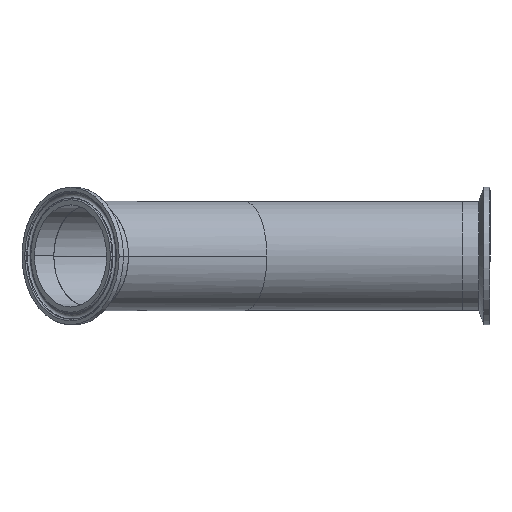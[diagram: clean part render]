
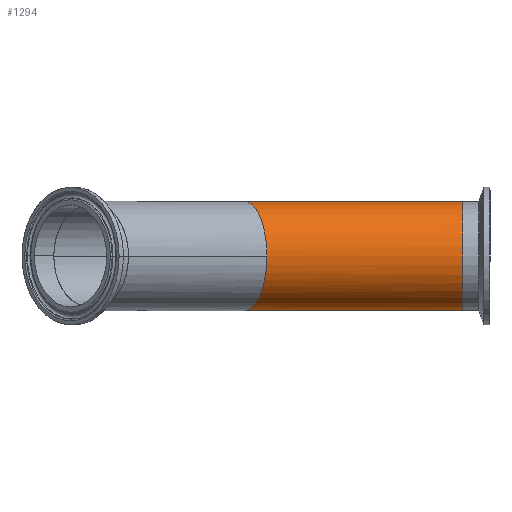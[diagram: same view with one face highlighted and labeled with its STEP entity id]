
A CAD part, left-side view. The second image highlights one B-rep face of the part: STEP entity #1294.
In plain terms, the highlighted cylindrical face has radius 25.4 mm (diameter 50.8 mm), a partial arc.
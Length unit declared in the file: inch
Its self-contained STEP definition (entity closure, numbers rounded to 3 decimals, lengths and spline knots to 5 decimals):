
#31 =( BOUNDED_CURVE ( )  B_SPLINE_CURVE ( 3, ( #671, #658, #1099, #790 ),
 .UNSPECIFIED., .F., .F. ) 
 B_SPLINE_CURVE_WITH_KNOTS ( ( 4, 4 ),
 ( 4.71239, 6.28319 ),
 .UNSPECIFIED. ) 
 CURVE ( )  GEOMETRIC_REPRESENTATION_ITEM ( )  RATIONAL_B_SPLINE_CURVE ( ( 1., 0.805, 0.805, 1. ) ) 
 REPRESENTATION_ITEM ( '' )  );
#43 = EDGE_CURVE ( 'NONE', #320, #127, #352, .T. ) ;
#44 = DIRECTION ( 'NONE',  ( 0., 1., 0. ) ) ;
#89 = CARTESIAN_POINT ( 'NONE',  ( -1., 3.58579, 0. ) ) ;
#127 = VERTEX_POINT ( 'NONE', #456 ) ;
#161 = CARTESIAN_POINT ( 'NONE',  ( 0., 4., -1. ) ) ;
#168 = EDGE_CURVE ( 'NONE', #849, #127, #602, .T. ) ;
#265 = LINE ( 'NONE', #922, #1075 ) ;
#269 = CARTESIAN_POINT ( 'NONE',  ( 0., 0., -1. ) ) ;
#271 = DIRECTION ( 'NONE',  ( 0., 0., -1. ) ) ;
#290 = EDGE_CURVE ( 'NONE', #1124, #341, #469, .T. ) ;
#320 = VERTEX_POINT ( 'NONE', #410 ) ;
#341 = VERTEX_POINT ( 'NONE', #161 ) ;
#352 = LINE ( 'NONE', #918, #1018 ) ;
#410 = CARTESIAN_POINT ( 'NONE',  ( 0., 4., 1. ) ) ;
#433 = CARTESIAN_POINT ( 'NONE',  ( -1., 3.58579, 0. ) ) ;
#456 = CARTESIAN_POINT ( 'NONE',  ( 0., 0., 1. ) ) ;
#464 = DIRECTION ( 'NONE',  ( 0., 0., 1. ) ) ;
#469 =( BOUNDED_CURVE ( )  B_SPLINE_CURVE ( 3, ( #89, #951, #843, #957 ),
 .UNSPECIFIED., .F., .F. ) 
 B_SPLINE_CURVE_WITH_KNOTS ( ( 4, 4 ),
 ( 0., 1.5708 ),
 .UNSPECIFIED. ) 
 CURVE ( )  GEOMETRIC_REPRESENTATION_ITEM ( )  RATIONAL_B_SPLINE_CURVE ( ( 1., 0.805, 0.805, 1. ) ) 
 REPRESENTATION_ITEM ( '' )  );
#602 = CIRCLE ( 'NONE', #1392, 1. ) ;
#658 = CARTESIAN_POINT ( 'NONE',  ( -0.58579, 3.75736, 1. ) ) ;
#671 = CARTESIAN_POINT ( 'NONE',  ( 0., 4., 1. ) ) ;
#719 = AXIS2_PLACEMENT_3D ( 'NONE', #1266, #1354, #271 ) ;
#722 = CYLINDRICAL_SURFACE ( 'NONE', #719, 1. ) ;
#782 = DIRECTION ( 'NONE',  ( 0., -1., 0. ) ) ;
#790 = CARTESIAN_POINT ( 'NONE',  ( -1., 3.58579, 0. ) ) ;
#840 = DIRECTION ( 'NONE',  ( 0., -1., 0. ) ) ;
#843 = CARTESIAN_POINT ( 'NONE',  ( -0.58579, 3.75736, -1. ) ) ;
#849 = VERTEX_POINT ( 'NONE', #269 ) ;
#897 = ORIENTED_EDGE ( 'NONE', *, *, #1340, .T. ) ;
#918 = CARTESIAN_POINT ( 'NONE',  ( 0., 4., 1. ) ) ;
#922 = CARTESIAN_POINT ( 'NONE',  ( 0., 4., -1. ) ) ;
#951 = CARTESIAN_POINT ( 'NONE',  ( -1., 3.58579, -0.58579 ) ) ;
#957 = CARTESIAN_POINT ( 'NONE',  ( 0., 4., -1. ) ) ;
#998 = CARTESIAN_POINT ( 'NONE',  ( 0., 0., 0. ) ) ;
#1018 = VECTOR ( 'NONE', #782, 39.37008 ) ;
#1064 = EDGE_LOOP ( 'NONE', ( #1244, #1236, #1315, #897, #1387 ) ) ;
#1075 = VECTOR ( 'NONE', #840, 39.37008 ) ;
#1099 = CARTESIAN_POINT ( 'NONE',  ( -1., 3.58579, 0.58579 ) ) ;
#1124 = VERTEX_POINT ( 'NONE', #433 ) ;
#1186 = EDGE_CURVE ( 'NONE', #320, #1124, #31, .T. ) ;
#1236 = ORIENTED_EDGE ( 'NONE', *, *, #1186, .T. ) ;
#1244 = ORIENTED_EDGE ( 'NONE', *, *, #43, .F. ) ;
#1266 = CARTESIAN_POINT ( 'NONE',  ( 0., 4., 0. ) ) ;
#1294 = ADVANCED_FACE ( 'NONE', ( #1351 ), #722, .T. ) ;
#1315 = ORIENTED_EDGE ( 'NONE', *, *, #290, .T. ) ;
#1340 = EDGE_CURVE ( 'NONE', #341, #849, #265, .T. ) ;
#1351 = FACE_OUTER_BOUND ( 'NONE', #1064, .T. ) ;
#1354 = DIRECTION ( 'NONE',  ( 0., -1., 0. ) ) ;
#1387 = ORIENTED_EDGE ( 'NONE', *, *, #168, .T. ) ;
#1392 = AXIS2_PLACEMENT_3D ( 'NONE', #998, #44, #464 ) ;
